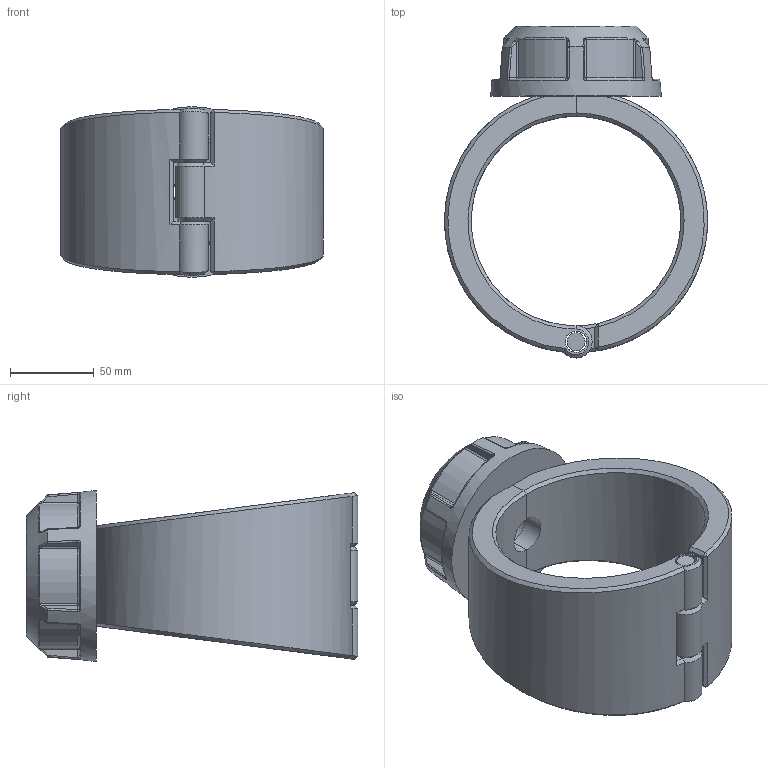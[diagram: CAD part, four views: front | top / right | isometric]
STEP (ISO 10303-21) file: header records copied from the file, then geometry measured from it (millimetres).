
FILE_DESCRIPTION(/* description */ ('Plassadle Threaded 125x1 1/2'''''),/* implementation_level */ '2;1');
FILE_NAME(/* name */ 'C:\Users\comp2\Dropbox\99-16-3568-Processing\Mechanical Fittings\16300\stp\163000125015.stp',/* time_stamp */ '2022-02-03T11:51:02+00:00',/* author */ ('comp2'),/* organization */ (''),/* preprocessor_version */ 'ST-DEVELOPER v17.2',/* originating_system */ 'Autodesk Inventor 2019',/* authorisation */ '');
FILE_SCHEMA (('AUTOMOTIVE_DESIGN { 1 0 10303 214 3 1 1 }'));
Length unit declared in the file: millimetre
Products named in the file (1): 163000125015
Bounding box: 156.96 x 198 x 102 mm (x, y, z)
Volume: 751076.1 mm3; surface area: 124531.4 mm2
Topology: 4 solids, 4 shells, 203 faces, 486 edges, 293 vertices
Faces by surface type: bspline 58, plane 53, cylinder 47, torus 18, cone 15, sphere 12
Full cylindrical faces by diameter (mm): 10.74 x1, 12.74 x3, 22.422 x1, 38.118 x1, 44.845 x1, 67.267 x1
Entity records: 8235 total; most frequent: CARTESIAN_POINT 3888, ORIENTED_EDGE 972, DIRECTION 781, EDGE_CURVE 486, AXIS2_PLACEMENT_3D 330, VERTEX_POINT 293, EDGE_LOOP 213, FACE_OUTER_BOUND 203
